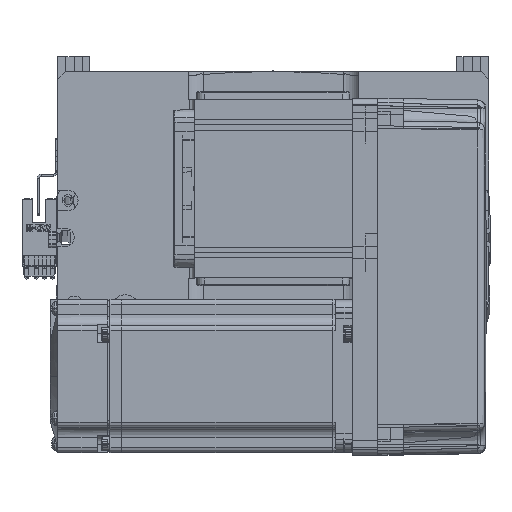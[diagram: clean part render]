
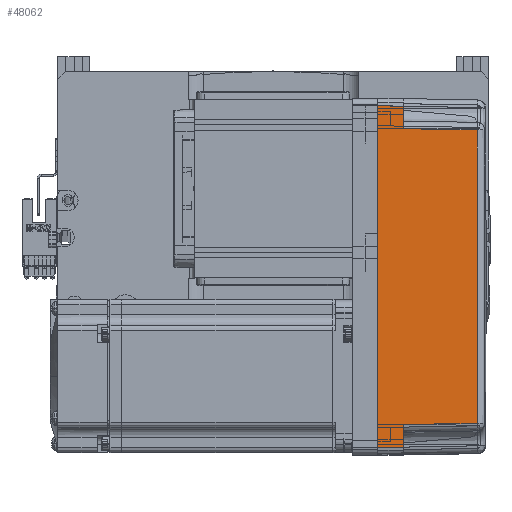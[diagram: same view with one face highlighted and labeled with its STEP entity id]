
A CAD part, top view. The second image highlights one B-rep face of the part: STEP entity #48062.
In plain terms, the highlighted planar face has unit normal (0.018, 0, 1) as drawn and (0, 1, 0.017) by its records, which use the part's own axes.
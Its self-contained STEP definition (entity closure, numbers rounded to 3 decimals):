
#2120 = CARTESIAN_POINT ( 'NONE',  ( 0., 36., 0. ) ) ;
#2653 = ORIENTED_EDGE ( 'NONE', *, *, #17817, .T. ) ;
#4331 = CARTESIAN_POINT ( 'NONE',  ( 70., 35.825, 10. ) ) ;
#5355 = VECTOR ( 'NONE', #51893, 1000. ) ;
#6105 = DIRECTION ( 'NONE',  ( 1., 0., 0. ) ) ;
#7985 = EDGE_CURVE ( 'NONE', #9337, #38883, #59102, .T. ) ;
#8699 = LINE ( 'NONE', #47178, #5355 ) ;
#9337 = VERTEX_POINT ( 'NONE', #52112 ) ;
#10721 = CARTESIAN_POINT ( 'NONE',  ( -19.165, 35.316, 39.181 ) ) ;
#11327 = CARTESIAN_POINT ( 'NONE',  ( 58., 35.825, 10. ) ) ;
#13903 = EDGE_CURVE ( 'NONE', #38419, #54702, #50007, .T. ) ;
#15674 = LINE ( 'NONE', #58189, #30805 ) ;
#15715 = DIRECTION ( 'NONE',  ( 0.017, -0.017, 1. ) ) ;
#17817 = EDGE_CURVE ( 'NONE', #31721, #28467, #21240, .T. ) ;
#19047 = VECTOR ( 'NONE', #55213, 1000. ) ;
#19422 = VECTOR ( 'NONE', #15715, 1000. ) ;
#19459 = EDGE_CURVE ( 'NONE', #68042, #31721, #24467, .T. ) ;
#21206 = CARTESIAN_POINT ( 'NONE',  ( 19.165, 35.316, 39.181 ) ) ;
#21240 = LINE ( 'NONE', #27592, #64891 ) ;
#21711 = DIRECTION ( 'NONE',  ( -0.017, -0.017, 1. ) ) ;
#22420 = LINE ( 'NONE', #60116, #27497 ) ;
#24467 = LINE ( 'NONE', #52521, #19422 ) ;
#26110 = DIRECTION ( 'NONE',  ( 0.017, -0.017, 1. ) ) ;
#26288 = DIRECTION ( 'NONE',  ( 1., 0., 0. ) ) ;
#27479 = CARTESIAN_POINT ( 'NONE',  ( -66.826, 35.825, 10. ) ) ;
#27497 = VECTOR ( 'NONE', #21711, 1000. ) ;
#27592 = CARTESIAN_POINT ( 'NONE',  ( 70., 35.825, 10. ) ) ;
#28467 = VERTEX_POINT ( 'NONE', #31637 ) ;
#29930 = CARTESIAN_POINT ( 'NONE',  ( -67., 36., 0. ) ) ;
#30805 = VECTOR ( 'NONE', #26110, 1000. ) ;
#31637 = CARTESIAN_POINT ( 'NONE',  ( -58., 35.825, 10. ) ) ;
#31721 = VERTEX_POINT ( 'NONE', #27479 ) ;
#33296 = DIRECTION ( 'NONE',  ( 0., 1., 0.017 ) ) ;
#37821 = FACE_OUTER_BOUND ( 'NONE', #67603, .T. ) ;
#38419 = VERTEX_POINT ( 'NONE', #11327 ) ;
#38883 = VERTEX_POINT ( 'NONE', #54552 ) ;
#38907 = ORIENTED_EDGE ( 'NONE', *, *, #50838, .F. ) ;
#39479 = EDGE_CURVE ( 'NONE', #68042, #53696, #66826, .T. ) ;
#39579 = CARTESIAN_POINT ( 'NONE',  ( 70., 36., 0. ) ) ;
#42508 = VECTOR ( 'NONE', #26288, 1000. ) ;
#44262 = PLANE ( 'NONE',  #66918 ) ;
#46229 = EDGE_CURVE ( 'NONE', #38883, #38419, #8699, .T. ) ;
#47178 = CARTESIAN_POINT ( 'NONE',  ( 57.495, 35.32, 38.985 ) ) ;
#47278 = ORIENTED_EDGE ( 'NONE', *, *, #13903, .T. ) ;
#48062 = ADVANCED_FACE ( 'NONE', ( #37821 ), #44262, .T. ) ;
#48374 = CARTESIAN_POINT ( 'NONE',  ( -57.495, 35.32, 38.985 ) ) ;
#50007 = LINE ( 'NONE', #4331, #42508 ) ;
#50838 = EDGE_CURVE ( 'NONE', #53696, #54702, #22420, .T. ) ;
#51893 = DIRECTION ( 'NONE',  ( 0.017, 0.017, -1. ) ) ;
#52112 = CARTESIAN_POINT ( 'NONE',  ( -57.495, 35.32, 38.985 ) ) ;
#52521 = CARTESIAN_POINT ( 'NONE',  ( -67., 36., 0. ) ) ;
#53483 = ORIENTED_EDGE ( 'NONE', *, *, #39479, .F. ) ;
#53696 = VERTEX_POINT ( 'NONE', #63933 ) ;
#54552 = CARTESIAN_POINT ( 'NONE',  ( 57.495, 35.32, 38.985 ) ) ;
#54702 = VERTEX_POINT ( 'NONE', #62597 ) ;
#55072 = ORIENTED_EDGE ( 'NONE', *, *, #7985, .T. ) ;
#55213 = DIRECTION ( 'NONE',  ( 1., 0., 0. ) ) ;
#55282 = DIRECTION ( 'NONE',  ( 0., -0.017, 1. ) ) ;
#57496 = ORIENTED_EDGE ( 'NONE', *, *, #19459, .T. ) ;
#58189 = CARTESIAN_POINT ( 'NONE',  ( -58., 35.825, 10. ) ) ;
#59102 = B_SPLINE_CURVE_WITH_KNOTS ( 'NONE', 3,
 ( #48374, #10721, #21206, #69231 ),
 .UNSPECIFIED., .F., .F.,
 ( 4, 4 ),
 ( 0., 1. ),
 .UNSPECIFIED. ) ;
#60115 = ORIENTED_EDGE ( 'NONE', *, *, #60539, .T. ) ;
#60116 = CARTESIAN_POINT ( 'NONE',  ( 67.001, 36.001, -0.052 ) ) ;
#60539 = EDGE_CURVE ( 'NONE', #28467, #9337, #15674, .T. ) ;
#62597 = CARTESIAN_POINT ( 'NONE',  ( 66.826, 35.825, 10. ) ) ;
#63933 = CARTESIAN_POINT ( 'NONE',  ( 67., 36., 0. ) ) ;
#64703 = ORIENTED_EDGE ( 'NONE', *, *, #46229, .T. ) ;
#64891 = VECTOR ( 'NONE', #6105, 1000. ) ;
#66826 = LINE ( 'NONE', #2120, #19047 ) ;
#66918 = AXIS2_PLACEMENT_3D ( 'NONE', #39579, #33296, #55282 ) ;
#67603 = EDGE_LOOP ( 'NONE', ( #57496, #2653, #60115, #55072, #64703, #47278, #38907, #53483 ) ) ;
#68042 = VERTEX_POINT ( 'NONE', #29930 ) ;
#69231 = CARTESIAN_POINT ( 'NONE',  ( 57.495, 35.32, 38.985 ) ) ;
